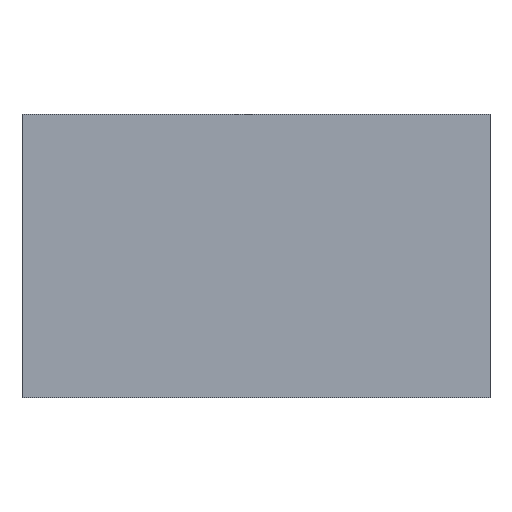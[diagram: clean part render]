
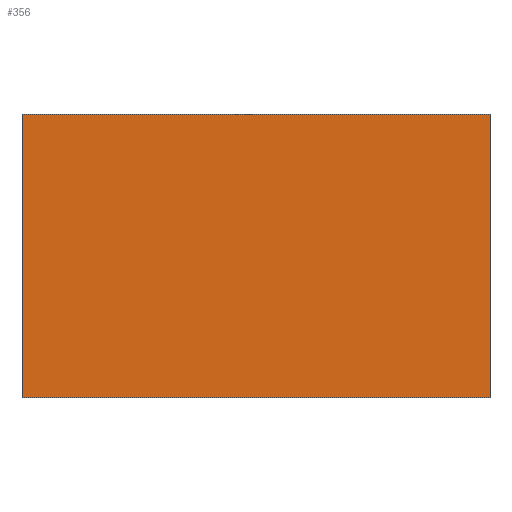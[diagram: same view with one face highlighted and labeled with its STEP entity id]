
A CAD part, top view. The second image highlights one B-rep face of the part: STEP entity #356.
In plain terms, the highlighted planar face has unit normal (0, 0, 1).
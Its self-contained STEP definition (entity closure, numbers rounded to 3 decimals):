
#42 = VERTEX_POINT('',#43);
#43 = CARTESIAN_POINT('',(0.,0.,0.6));
#50 = PLANE('',#51);
#51 = AXIS2_PLACEMENT_3D('',#52,#53,#54);
#52 = CARTESIAN_POINT('',(0.,0.,0.));
#53 = DIRECTION('',(1.,0.,-0.));
#54 = DIRECTION('',(0.,0.,1.));
#62 = PLANE('',#63);
#63 = AXIS2_PLACEMENT_3D('',#64,#65,#66);
#64 = CARTESIAN_POINT('',(0.,0.,0.));
#65 = DIRECTION('',(-0.,1.,0.));
#66 = DIRECTION('',(0.,0.,1.));
#103 = VERTEX_POINT('',#104);
#104 = CARTESIAN_POINT('',(0.,14.3,0.6));
#118 = PLANE('',#119);
#119 = AXIS2_PLACEMENT_3D('',#120,#121,#122);
#120 = CARTESIAN_POINT('',(0.,14.3,0.));
#121 = DIRECTION('',(-0.,1.,0.));
#122 = DIRECTION('',(0.,0.,1.));
#130 = EDGE_CURVE('',#42,#103,#131,.T.);
#131 = SURFACE_CURVE('',#132,(#136,#143),.PCURVE_S1.);
#132 = LINE('',#133,#134);
#133 = CARTESIAN_POINT('',(0.,0.,0.6));
#134 = VECTOR('',#135,1.);
#135 = DIRECTION('',(-0.,1.,0.));
#136 = PCURVE('',#50,#137);
#137 = DEFINITIONAL_REPRESENTATION('',(#138),#142);
#138 = LINE('',#139,#140);
#139 = CARTESIAN_POINT('',(0.6,0.));
#140 = VECTOR('',#141,1.);
#141 = DIRECTION('',(0.,-1.));
#142 = ( GEOMETRIC_REPRESENTATION_CONTEXT(2) 
PARAMETRIC_REPRESENTATION_CONTEXT() REPRESENTATION_CONTEXT('2D SPACE',''
  ) );
#143 = PCURVE('',#144,#149);
#144 = PLANE('',#145);
#145 = AXIS2_PLACEMENT_3D('',#146,#147,#148);
#146 = CARTESIAN_POINT('',(0.,0.,0.6));
#147 = DIRECTION('',(0.,0.,1.));
#148 = DIRECTION('',(1.,0.,-0.));
#149 = DEFINITIONAL_REPRESENTATION('',(#150),#154);
#150 = LINE('',#151,#152);
#151 = CARTESIAN_POINT('',(0.,0.));
#152 = VECTOR('',#153,1.);
#153 = DIRECTION('',(0.,1.));
#154 = ( GEOMETRIC_REPRESENTATION_CONTEXT(2) 
PARAMETRIC_REPRESENTATION_CONTEXT() REPRESENTATION_CONTEXT('2D SPACE',''
  ) );
#162 = VERTEX_POINT('',#163);
#163 = CARTESIAN_POINT('',(23.6,0.,0.6));
#170 = PLANE('',#171);
#171 = AXIS2_PLACEMENT_3D('',#172,#173,#174);
#172 = CARTESIAN_POINT('',(23.6,0.,0.));
#173 = DIRECTION('',(1.,0.,-0.));
#174 = DIRECTION('',(0.,0.,1.));
#213 = VERTEX_POINT('',#214);
#214 = CARTESIAN_POINT('',(23.6,14.3,0.6));
#235 = EDGE_CURVE('',#162,#213,#236,.T.);
#236 = SURFACE_CURVE('',#237,(#241,#248),.PCURVE_S1.);
#237 = LINE('',#238,#239);
#238 = CARTESIAN_POINT('',(23.6,0.,0.6));
#239 = VECTOR('',#240,1.);
#240 = DIRECTION('',(-0.,1.,0.));
#241 = PCURVE('',#170,#242);
#242 = DEFINITIONAL_REPRESENTATION('',(#243),#247);
#243 = LINE('',#244,#245);
#244 = CARTESIAN_POINT('',(0.6,0.));
#245 = VECTOR('',#246,1.);
#246 = DIRECTION('',(0.,-1.));
#247 = ( GEOMETRIC_REPRESENTATION_CONTEXT(2) 
PARAMETRIC_REPRESENTATION_CONTEXT() REPRESENTATION_CONTEXT('2D SPACE',''
  ) );
#248 = PCURVE('',#144,#249);
#249 = DEFINITIONAL_REPRESENTATION('',(#250),#254);
#250 = LINE('',#251,#252);
#251 = CARTESIAN_POINT('',(23.6,0.));
#252 = VECTOR('',#253,1.);
#253 = DIRECTION('',(0.,1.));
#254 = ( GEOMETRIC_REPRESENTATION_CONTEXT(2) 
PARAMETRIC_REPRESENTATION_CONTEXT() REPRESENTATION_CONTEXT('2D SPACE',''
  ) );
#281 = EDGE_CURVE('',#42,#162,#282,.T.);
#282 = SURFACE_CURVE('',#283,(#287,#294),.PCURVE_S1.);
#283 = LINE('',#284,#285);
#284 = CARTESIAN_POINT('',(0.,0.,0.6));
#285 = VECTOR('',#286,1.);
#286 = DIRECTION('',(1.,0.,-0.));
#287 = PCURVE('',#62,#288);
#288 = DEFINITIONAL_REPRESENTATION('',(#289),#293);
#289 = LINE('',#290,#291);
#290 = CARTESIAN_POINT('',(0.6,0.));
#291 = VECTOR('',#292,1.);
#292 = DIRECTION('',(0.,1.));
#293 = ( GEOMETRIC_REPRESENTATION_CONTEXT(2) 
PARAMETRIC_REPRESENTATION_CONTEXT() REPRESENTATION_CONTEXT('2D SPACE',''
  ) );
#294 = PCURVE('',#144,#295);
#295 = DEFINITIONAL_REPRESENTATION('',(#296),#300);
#296 = LINE('',#297,#298);
#297 = CARTESIAN_POINT('',(0.,0.));
#298 = VECTOR('',#299,1.);
#299 = DIRECTION('',(1.,0.));
#300 = ( GEOMETRIC_REPRESENTATION_CONTEXT(2) 
PARAMETRIC_REPRESENTATION_CONTEXT() REPRESENTATION_CONTEXT('2D SPACE',''
  ) );
#328 = EDGE_CURVE('',#103,#213,#329,.T.);
#329 = SURFACE_CURVE('',#330,(#334,#341),.PCURVE_S1.);
#330 = LINE('',#331,#332);
#331 = CARTESIAN_POINT('',(0.,14.3,0.6));
#332 = VECTOR('',#333,1.);
#333 = DIRECTION('',(1.,0.,-0.));
#334 = PCURVE('',#118,#335);
#335 = DEFINITIONAL_REPRESENTATION('',(#336),#340);
#336 = LINE('',#337,#338);
#337 = CARTESIAN_POINT('',(0.6,0.));
#338 = VECTOR('',#339,1.);
#339 = DIRECTION('',(0.,1.));
#340 = ( GEOMETRIC_REPRESENTATION_CONTEXT(2) 
PARAMETRIC_REPRESENTATION_CONTEXT() REPRESENTATION_CONTEXT('2D SPACE',''
  ) );
#341 = PCURVE('',#144,#342);
#342 = DEFINITIONAL_REPRESENTATION('',(#343),#347);
#343 = LINE('',#344,#345);
#344 = CARTESIAN_POINT('',(0.,14.3));
#345 = VECTOR('',#346,1.);
#346 = DIRECTION('',(1.,0.));
#347 = ( GEOMETRIC_REPRESENTATION_CONTEXT(2) 
PARAMETRIC_REPRESENTATION_CONTEXT() REPRESENTATION_CONTEXT('2D SPACE',''
  ) );
#356 = ADVANCED_FACE('',(#357),#144,.T.);
#357 = FACE_BOUND('',#358,.T.);
#358 = EDGE_LOOP('',(#359,#360,#361,#362));
#359 = ORIENTED_EDGE('',*,*,#130,.F.);
#360 = ORIENTED_EDGE('',*,*,#281,.T.);
#361 = ORIENTED_EDGE('',*,*,#235,.T.);
#362 = ORIENTED_EDGE('',*,*,#328,.F.);
